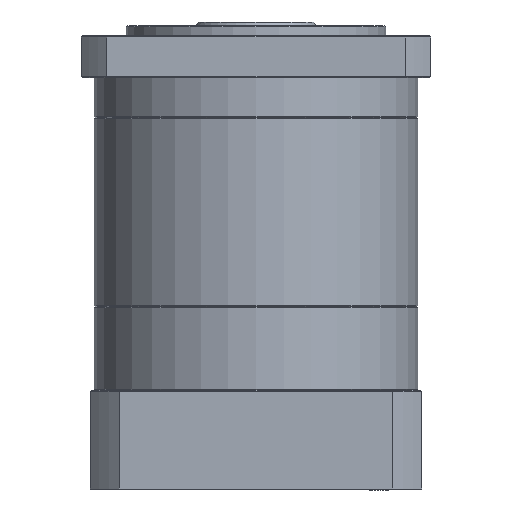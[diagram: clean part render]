
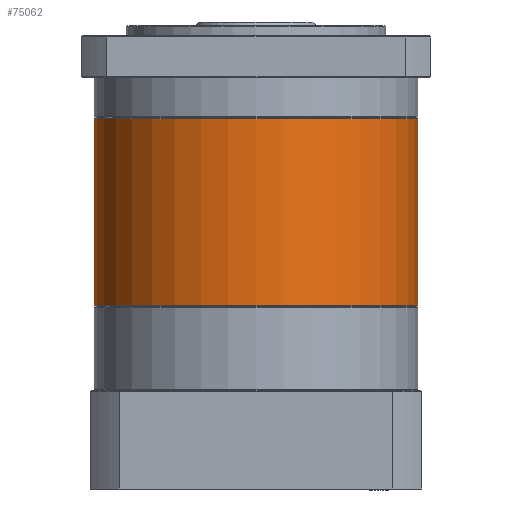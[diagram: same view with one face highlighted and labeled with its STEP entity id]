
A CAD part, front view. The second image highlights one B-rep face of the part: STEP entity #75062.
In plain terms, the highlighted cylindrical face has radius 81 mm (diameter 162 mm), a partial arc.
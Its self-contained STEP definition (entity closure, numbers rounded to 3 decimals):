
#416 = AXIS2_PLACEMENT_3D ( 'NONE', #61607, #76414, #26213 ) ;
#1076 = VERTEX_POINT ( 'NONE', #83171 ) ;
#2808 = VECTOR ( 'NONE', #81792, 1000. ) ;
#4921 = DIRECTION ( 'NONE',  ( 1., 0., 0. ) ) ;
#5929 = AXIS2_PLACEMENT_3D ( 'NONE', #91963, #35093, #4921 ) ;
#6392 = VECTOR ( 'NONE', #91722, 1000. ) ;
#10293 = AXIS2_PLACEMENT_3D ( 'NONE', #18628, #25262, #25874 ) ;
#12188 = CARTESIAN_POINT ( 'NONE',  ( 93.125, 67.755, 28.063 ) ) ;
#18628 = CARTESIAN_POINT ( 'NONE',  ( 174.125, 67.755, 28.563 ) ) ;
#20629 = CARTESIAN_POINT ( 'NONE',  ( 255.125, 67.755, 122.063 ) ) ;
#25262 = DIRECTION ( 'NONE',  ( 0., 0., 1. ) ) ;
#25874 = DIRECTION ( 'NONE',  ( 1., 0., 0. ) ) ;
#26213 = DIRECTION ( 'NONE',  ( 1., 0., 0. ) ) ;
#30115 = CARTESIAN_POINT ( 'NONE',  ( 255.125, 67.755, 28.563 ) ) ;
#31311 = ORIENTED_EDGE ( 'NONE', *, *, #82269, .T. ) ;
#31484 = VERTEX_POINT ( 'NONE', #20629 ) ;
#35093 = DIRECTION ( 'NONE',  ( 0., 0., 1. ) ) ;
#38735 = LINE ( 'NONE', #67674, #2808 ) ;
#38753 = CIRCLE ( 'NONE', #416, 81. ) ;
#40876 = ORIENTED_EDGE ( 'NONE', *, *, #48794, .F. ) ;
#41040 = VERTEX_POINT ( 'NONE', #30115 ) ;
#42351 = LINE ( 'NONE', #12188, #6392 ) ;
#48794 = EDGE_CURVE ( 'NONE', #65515, #1076, #42351, .T. ) ;
#56621 = CARTESIAN_POINT ( 'NONE',  ( 93.125, 67.755, 28.563 ) ) ;
#57373 = CYLINDRICAL_SURFACE ( 'NONE', #5929, 81. ) ;
#58195 = ORIENTED_EDGE ( 'NONE', *, *, #65285, .T. ) ;
#61607 = CARTESIAN_POINT ( 'NONE',  ( 174.125, 67.755, 122.063 ) ) ;
#62928 = FACE_OUTER_BOUND ( 'NONE', #83505, .T. ) ;
#65285 = EDGE_CURVE ( 'NONE', #41040, #31484, #38735, .T. ) ;
#65515 = VERTEX_POINT ( 'NONE', #56621 ) ;
#67674 = CARTESIAN_POINT ( 'NONE',  ( 255.125, 67.755, 28.063 ) ) ;
#69089 = EDGE_CURVE ( 'NONE', #31484, #1076, #38753, .T. ) ;
#75062 = ADVANCED_FACE ( 'NONE', ( #62928 ), #57373, .T. ) ;
#76414 = DIRECTION ( 'NONE',  ( 0., 0., -1. ) ) ;
#81792 = DIRECTION ( 'NONE',  ( 0., 0., 1. ) ) ;
#82269 = EDGE_CURVE ( 'NONE', #65515, #41040, #85466, .T. ) ;
#83171 = CARTESIAN_POINT ( 'NONE',  ( 93.125, 67.755, 122.063 ) ) ;
#83505 = EDGE_LOOP ( 'NONE', ( #40876, #31311, #58195, #87236 ) ) ;
#85466 = CIRCLE ( 'NONE', #10293, 81. ) ;
#87236 = ORIENTED_EDGE ( 'NONE', *, *, #69089, .T. ) ;
#91722 = DIRECTION ( 'NONE',  ( 0., 0., 1. ) ) ;
#91963 = CARTESIAN_POINT ( 'NONE',  ( 174.125, 67.755, 28.063 ) ) ;
